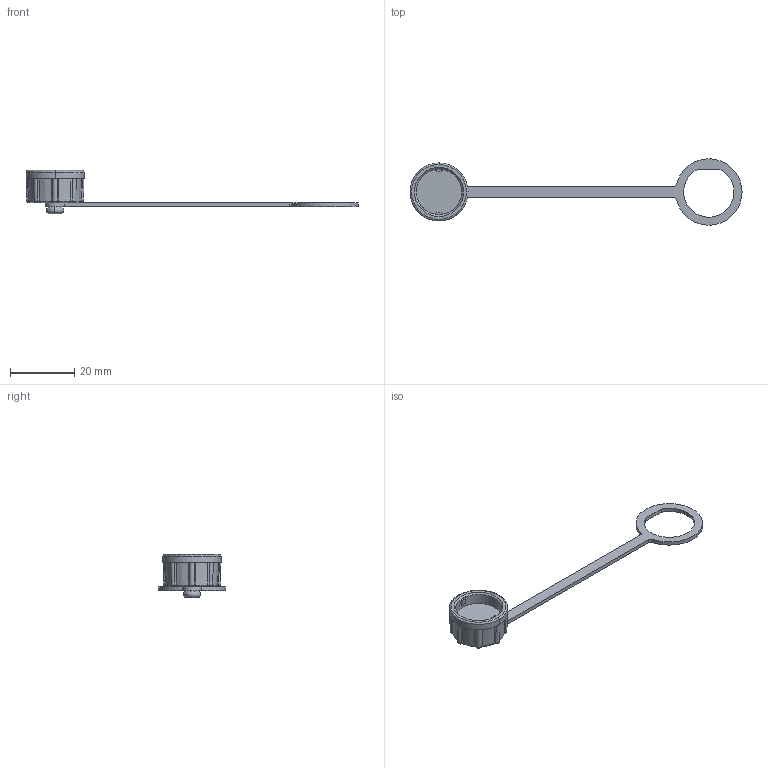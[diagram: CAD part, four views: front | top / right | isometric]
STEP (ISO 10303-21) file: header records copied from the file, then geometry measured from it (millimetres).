
FILE_DESCRIPTION (( 'STEP AP203' ), '1' );
FILE_NAME ('869-870-CAP.STEP', '2024-06-14T18:35:01', ( '' ), ( '' ), 'SwSTEP 2.0', 'SolidWorks 2020', '' );
FILE_SCHEMA (( 'CONFIG_CONTROL_DESIGN' ));
Length unit declared in the file: millimetre
Products named in the file (1): 869-870-CAP
Bounding box: 103 x 20.58 x 13.4 mm (x, y, z)
Volume: 1666.9 mm3; surface area: 3176.2 mm2
Topology: 3 solids, 3 shells, 166 faces, 425 edges, 269 vertices
Faces by surface type: cylinder 67, plane 48, bspline 37, cone 10, torus 4
Entity records: 7838 total; most frequent: CARTESIAN_POINT 4223, ORIENTED_EDGE 850, DIRECTION 593, EDGE_CURVE 425, VERTEX_POINT 269, AXIS2_PLACEMENT_3D 242, EDGE_LOOP 178, FACE_OUTER_BOUND 166
